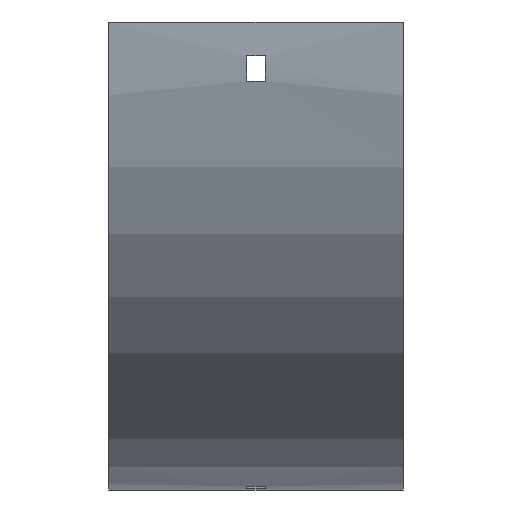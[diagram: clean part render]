
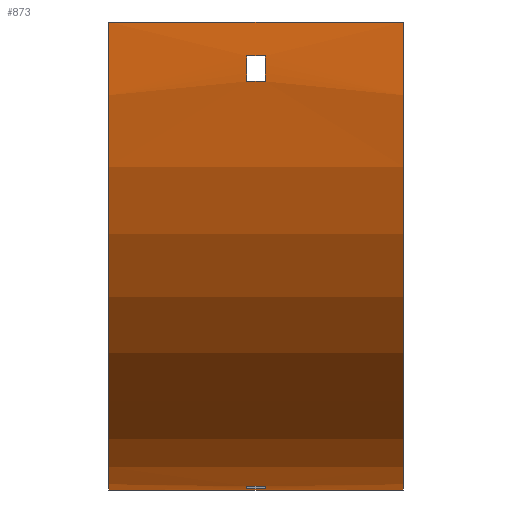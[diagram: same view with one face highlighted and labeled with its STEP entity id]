
A CAD part, front view. The second image highlights one B-rep face of the part: STEP entity #873.
In plain terms, the highlighted cylindrical face has radius 165.5 mm (diameter 331 mm), a partial arc.
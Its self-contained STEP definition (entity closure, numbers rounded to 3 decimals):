
#15 = AXIS2_PLACEMENT_3D ( 'NONE', #177, #270, #626 ) ;
#26 = CARTESIAN_POINT ( 'NONE',  ( -3.25, -65.064, -12. ) ) ;
#28 = VERTEX_POINT ( 'NONE', #421 ) ;
#55 = AXIS2_PLACEMENT_3D ( 'NONE', #169, #533, #881 ) ;
#60 = CARTESIAN_POINT ( 'NONE',  ( 52., -64.162, -21. ) ) ;
#63 = LINE ( 'NONE', #142, #674 ) ;
#67 = ORIENTED_EDGE ( 'NONE', *, *, #585, .T. ) ;
#74 = EDGE_CURVE ( 'NONE', #518, #756, #1146, .T. ) ;
#80 = FACE_BOUND ( 'NONE', #593, .T. ) ;
#103 = CIRCLE ( 'NONE', #1027, 165.5 ) ;
#108 = EDGE_CURVE ( 'NONE', #518, #333, #1022, .T. ) ;
#109 = DIRECTION ( 'NONE',  ( 0., 0., -1. ) ) ;
#125 = VERTEX_POINT ( 'NONE', #155 ) ;
#131 = ORIENTED_EDGE ( 'NONE', *, *, #784, .T. ) ;
#135 = ORIENTED_EDGE ( 'NONE', *, *, #538, .F. ) ;
#142 = CARTESIAN_POINT ( 'NONE',  ( 52., 88., -165.064 ) ) ;
#153 = FACE_BOUND ( 'NONE', #499, .T. ) ;
#155 = CARTESIAN_POINT ( 'NONE',  ( -3.25, 88., -165.064 ) ) ;
#162 = CIRCLE ( 'NONE', #650, 165.5 ) ;
#169 = CARTESIAN_POINT ( 'NONE',  ( 52., 100., 0. ) ) ;
#177 = CARTESIAN_POINT ( 'NONE',  ( -3.25, 100., 0. ) ) ;
#191 = DIRECTION ( 'NONE',  ( -1., 0., 0. ) ) ;
#198 = LINE ( 'NONE', #385, #485 ) ;
#206 = DIRECTION ( 'NONE',  ( 1., 0., 0. ) ) ;
#219 = CARTESIAN_POINT ( 'NONE',  ( 52., 100., -165.5 ) ) ;
#224 = CARTESIAN_POINT ( 'NONE',  ( -52., 100., -165.5 ) ) ;
#231 = DIRECTION ( 'NONE',  ( 0., 0., -1. ) ) ;
#236 = ORIENTED_EDGE ( 'NONE', *, *, #726, .T. ) ;
#255 = AXIS2_PLACEMENT_3D ( 'NONE', #457, #820, #1071 ) ;
#257 = CARTESIAN_POINT ( 'NONE',  ( -3.25, -64.162, -21. ) ) ;
#268 = CARTESIAN_POINT ( 'NONE',  ( -52., -65.5, 0. ) ) ;
#270 = DIRECTION ( 'NONE',  ( -1., 0., 0. ) ) ;
#314 = DIRECTION ( 'NONE',  ( 1., 0., 0. ) ) ;
#319 = CIRCLE ( 'NONE', #15, 165.5 ) ;
#328 = DIRECTION ( 'NONE',  ( -1., 0., 0. ) ) ;
#333 = VERTEX_POINT ( 'NONE', #268 ) ;
#345 = ORIENTED_EDGE ( 'NONE', *, *, #656, .F. ) ;
#352 = AXIS2_PLACEMENT_3D ( 'NONE', #729, #987, #109 ) ;
#372 = CARTESIAN_POINT ( 'NONE',  ( 3.25, 100., 0. ) ) ;
#385 = CARTESIAN_POINT ( 'NONE',  ( 52., -65.064, -12. ) ) ;
#397 = DIRECTION ( 'NONE',  ( -1., 0., 0. ) ) ;
#400 = VERTEX_POINT ( 'NONE', #815 ) ;
#411 = VECTOR ( 'NONE', #397, 1000. ) ;
#414 = ORIENTED_EDGE ( 'NONE', *, *, #781, .F. ) ;
#415 = VECTOR ( 'NONE', #1110, 1000. ) ;
#421 = CARTESIAN_POINT ( 'NONE',  ( 3.25, 79., -164.162 ) ) ;
#457 = CARTESIAN_POINT ( 'NONE',  ( -3.25, 100., 0. ) ) ;
#463 = CIRCLE ( 'NONE', #352, 165.5 ) ;
#485 = VECTOR ( 'NONE', #206, 1000. ) ;
#499 = EDGE_LOOP ( 'NONE', ( #135, #345, #588, #414 ) ) ;
#513 = CARTESIAN_POINT ( 'NONE',  ( 52., -65.5, 0. ) ) ;
#518 = VERTEX_POINT ( 'NONE', #539 ) ;
#533 = DIRECTION ( 'NONE',  ( -1., 0., 0. ) ) ;
#538 = EDGE_CURVE ( 'NONE', #972, #125, #706, .T. ) ;
#539 = CARTESIAN_POINT ( 'NONE',  ( 52., -65.5, 0. ) ) ;
#571 = CARTESIAN_POINT ( 'NONE',  ( -52., 100., 0. ) ) ;
#579 = VERTEX_POINT ( 'NONE', #26 ) ;
#585 = EDGE_CURVE ( 'NONE', #579, #962, #198, .T. ) ;
#588 = ORIENTED_EDGE ( 'NONE', *, *, #618, .F. ) ;
#593 = EDGE_LOOP ( 'NONE', ( #131, #737, #67, #745 ) ) ;
#606 = LINE ( 'NONE', #965, #951 ) ;
#617 = FACE_OUTER_BOUND ( 'NONE', #834, .T. ) ;
#618 = EDGE_CURVE ( 'NONE', #400, #28, #162, .T. ) ;
#626 = DIRECTION ( 'NONE',  ( 0., 0., 1. ) ) ;
#650 = AXIS2_PLACEMENT_3D ( 'NONE', #372, #191, #724 ) ;
#654 = LINE ( 'NONE', #843, #1094 ) ;
#656 = EDGE_CURVE ( 'NONE', #28, #972, #654, .T. ) ;
#674 = VECTOR ( 'NONE', #314, 1000. ) ;
#698 = DIRECTION ( 'NONE',  ( -1., 0., 0. ) ) ;
#706 = CIRCLE ( 'NONE', #255, 165.5 ) ;
#724 = DIRECTION ( 'NONE',  ( 0., 0., 1. ) ) ;
#726 = EDGE_CURVE ( 'NONE', #333, #1089, #103, .T. ) ;
#729 = CARTESIAN_POINT ( 'NONE',  ( 3.25, 100., 0. ) ) ;
#737 = ORIENTED_EDGE ( 'NONE', *, *, #947, .T. ) ;
#745 = ORIENTED_EDGE ( 'NONE', *, *, #984, .T. ) ;
#756 = VERTEX_POINT ( 'NONE', #219 ) ;
#759 = LINE ( 'NONE', #60, #415 ) ;
#769 = DIRECTION ( 'NONE',  ( 0., 0., -1. ) ) ;
#781 = EDGE_CURVE ( 'NONE', #125, #400, #63, .T. ) ;
#784 = EDGE_CURVE ( 'NONE', #958, #869, #759, .T. ) ;
#813 = AXIS2_PLACEMENT_3D ( 'NONE', #858, #1040, #769 ) ;
#815 = CARTESIAN_POINT ( 'NONE',  ( 3.25, 88., -165.064 ) ) ;
#818 = CARTESIAN_POINT ( 'NONE',  ( -3.25, 79., -164.162 ) ) ;
#820 = DIRECTION ( 'NONE',  ( 1., 0., 0. ) ) ;
#828 = ORIENTED_EDGE ( 'NONE', *, *, #108, .T. ) ;
#834 = EDGE_LOOP ( 'NONE', ( #236, #855, #968, #828 ) ) ;
#835 = EDGE_CURVE ( 'NONE', #756, #1089, #606, .T. ) ;
#843 = CARTESIAN_POINT ( 'NONE',  ( 52., 79., -164.162 ) ) ;
#855 = ORIENTED_EDGE ( 'NONE', *, *, #835, .F. ) ;
#858 = CARTESIAN_POINT ( 'NONE',  ( 52., 100., 0. ) ) ;
#869 = VERTEX_POINT ( 'NONE', #257 ) ;
#873 = ADVANCED_FACE ( 'NONE', ( #617, #80, #153 ), #975, .T. ) ;
#881 = DIRECTION ( 'NONE',  ( 0., 0., 1. ) ) ;
#912 = CARTESIAN_POINT ( 'NONE',  ( 3.25, -65.064, -12. ) ) ;
#947 = EDGE_CURVE ( 'NONE', #869, #579, #319, .T. ) ;
#951 = VECTOR ( 'NONE', #698, 1000. ) ;
#958 = VERTEX_POINT ( 'NONE', #1009 ) ;
#962 = VERTEX_POINT ( 'NONE', #912 ) ;
#965 = CARTESIAN_POINT ( 'NONE',  ( 52., 100., -165.5 ) ) ;
#968 = ORIENTED_EDGE ( 'NONE', *, *, #74, .F. ) ;
#972 = VERTEX_POINT ( 'NONE', #818 ) ;
#975 = CYLINDRICAL_SURFACE ( 'NONE', #55, 165.5 ) ;
#984 = EDGE_CURVE ( 'NONE', #962, #958, #463, .T. ) ;
#987 = DIRECTION ( 'NONE',  ( 1., 0., 0. ) ) ;
#1009 = CARTESIAN_POINT ( 'NONE',  ( 3.25, -64.162, -21. ) ) ;
#1022 = LINE ( 'NONE', #513, #411 ) ;
#1027 = AXIS2_PLACEMENT_3D ( 'NONE', #571, #1128, #231 ) ;
#1040 = DIRECTION ( 'NONE',  ( 1., 0., 0. ) ) ;
#1071 = DIRECTION ( 'NONE',  ( 0., 1., 0. ) ) ;
#1089 = VERTEX_POINT ( 'NONE', #224 ) ;
#1094 = VECTOR ( 'NONE', #328, 1000. ) ;
#1110 = DIRECTION ( 'NONE',  ( -1., 0., 0. ) ) ;
#1128 = DIRECTION ( 'NONE',  ( 1., 0., 0. ) ) ;
#1146 = CIRCLE ( 'NONE', #813, 165.5 ) ;
